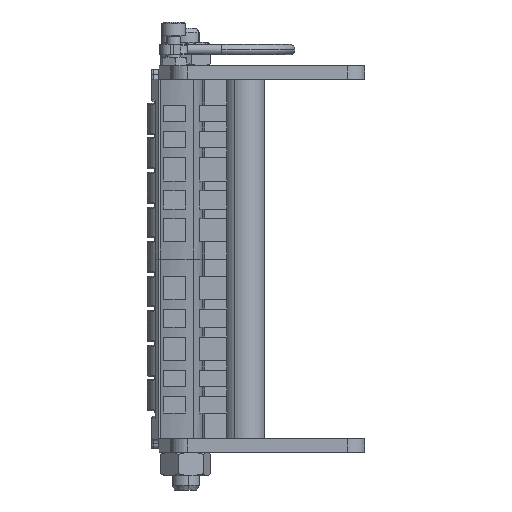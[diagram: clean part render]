
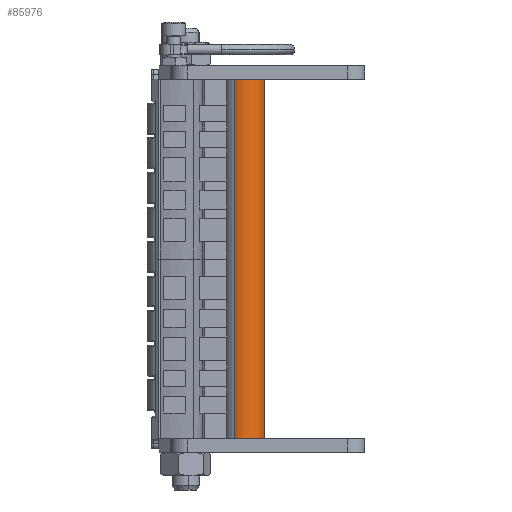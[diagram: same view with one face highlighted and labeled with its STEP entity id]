
A CAD part, left-side view. The second image highlights one B-rep face of the part: STEP entity #85976.
In plain terms, the highlighted cylindrical face has radius 6 mm (diameter 12 mm), a partial arc.
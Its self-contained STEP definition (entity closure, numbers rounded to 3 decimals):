
#1780 = DIRECTION ( 'NONE',  ( -0.896, 0.444, 0. ) ) ;
#7944 = DIRECTION ( 'NONE',  ( 0., 0., -1. ) ) ;
#12018 = DIRECTION ( 'NONE',  ( -0.896, 0.444, 0. ) ) ;
#19483 = ORIENTED_EDGE ( 'NONE', *, *, #99453, .T. ) ;
#20917 = VERTEX_POINT ( 'NONE', #43589 ) ;
#21784 = CARTESIAN_POINT ( 'NONE',  ( 225.422, -18.839, -109. ) ) ;
#23321 = CARTESIAN_POINT ( 'NONE',  ( 236.178, -24.161, -4. ) ) ;
#23479 = CARTESIAN_POINT ( 'NONE',  ( 236.178, -24.161, -4. ) ) ;
#24739 = VECTOR ( 'NONE', #7944, 1000. ) ;
#28729 = CARTESIAN_POINT ( 'NONE',  ( 230.8, -21.5, -4. ) ) ;
#29526 = ORIENTED_EDGE ( 'NONE', *, *, #35542, .F. ) ;
#29915 = CARTESIAN_POINT ( 'NONE',  ( 230.8, -21.5, -109. ) ) ;
#30171 = VECTOR ( 'NONE', #85908, 1000. ) ;
#34850 = ORIENTED_EDGE ( 'NONE', *, *, #58748, .T. ) ;
#35542 = EDGE_CURVE ( 'NONE', #44495, #20917, #65147, .T. ) ;
#40652 = EDGE_CURVE ( 'NONE', #82870, #20917, #109443, .T. ) ;
#43589 = CARTESIAN_POINT ( 'NONE',  ( 236.178, -24.161, -109. ) ) ;
#44495 = VERTEX_POINT ( 'NONE', #23321 ) ;
#47393 = ORIENTED_EDGE ( 'NONE', *, *, #40652, .T. ) ;
#48491 = LINE ( 'NONE', #104664, #24739 ) ;
#48700 = DIRECTION ( 'NONE',  ( 0., 0., -1. ) ) ;
#53126 = CARTESIAN_POINT ( 'NONE',  ( 225.422, -18.839, -4. ) ) ;
#58748 = EDGE_CURVE ( 'NONE', #44495, #87687, #104943, .T. ) ;
#61812 = AXIS2_PLACEMENT_3D ( 'NONE', #84232, #48700, #92730 ) ;
#64066 = EDGE_LOOP ( 'NONE', ( #29526, #34850, #19483, #47393 ) ) ;
#65147 = LINE ( 'NONE', #23479, #30171 ) ;
#73729 = DIRECTION ( 'NONE',  ( 0., 0., 1. ) ) ;
#82870 = VERTEX_POINT ( 'NONE', #21784 ) ;
#84232 = CARTESIAN_POINT ( 'NONE',  ( 230.8, -21.5, -4. ) ) ;
#85908 = DIRECTION ( 'NONE',  ( 0., 0., -1. ) ) ;
#85976 = ADVANCED_FACE ( 'NONE', ( #113854 ), #90034, .T. ) ;
#87687 = VERTEX_POINT ( 'NONE', #53126 ) ;
#88807 = AXIS2_PLACEMENT_3D ( 'NONE', #28729, #109885, #1780 ) ;
#90034 = CYLINDRICAL_SURFACE ( 'NONE', #61812, 6. ) ;
#90248 = AXIS2_PLACEMENT_3D ( 'NONE', #29915, #73729, #12018 ) ;
#92730 = DIRECTION ( 'NONE',  ( -0.896, 0.444, 0. ) ) ;
#99453 = EDGE_CURVE ( 'NONE', #87687, #82870, #48491, .T. ) ;
#104664 = CARTESIAN_POINT ( 'NONE',  ( 225.422, -18.839, -4. ) ) ;
#104943 = CIRCLE ( 'NONE', #88807, 6. ) ;
#109443 = CIRCLE ( 'NONE', #90248, 6. ) ;
#109885 = DIRECTION ( 'NONE',  ( 0., 0., -1. ) ) ;
#113854 = FACE_OUTER_BOUND ( 'NONE', #64066, .T. ) ;
